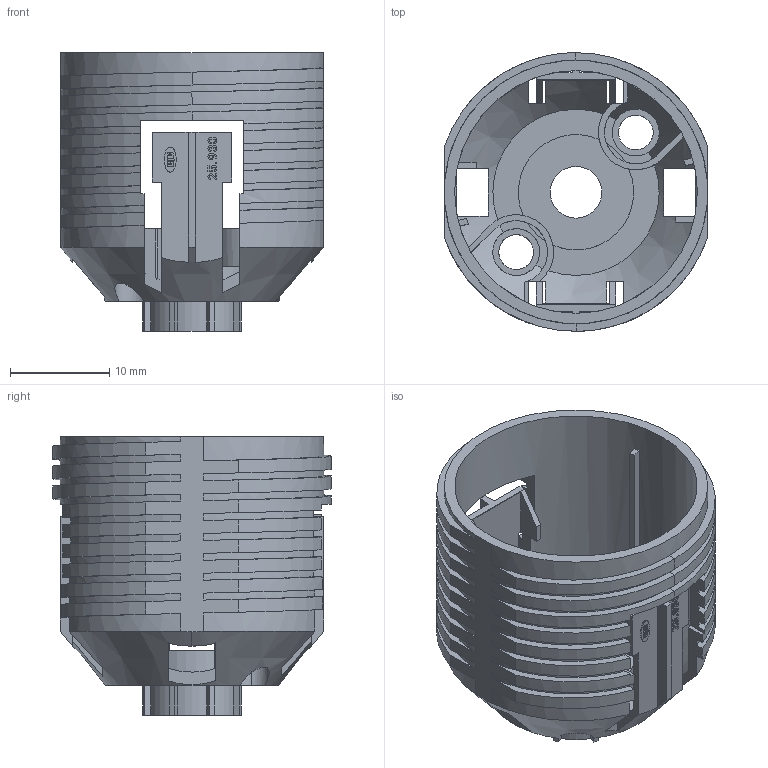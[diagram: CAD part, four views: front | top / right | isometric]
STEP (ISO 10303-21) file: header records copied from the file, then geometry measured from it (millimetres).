
FILE_DESCRIPTION(('Surface Model. B-Spline boundary curves.'),'1');
FILE_NAME('F:\ci-bearbeitung\00WYR05Z01.stp','2002-05-29 T',(' '),(' '),'STEP Interface v190.0 by CORETECH International','TRANS-3D v190.0 by CORETECH International',' ');
FILE_SCHEMA(('CONFIG_CONTROL_DESIGN'));
Length unit declared in the file: millimetre
Products named in the file (1): 00WYR05Z01
Bounding box: 26.4 x 28 x 28 mm (x, y, z)
Volume: 2821.3 mm3; surface area: 6260.5 mm2
Topology: 1 solids, 1 shells, 569 faces, 1634 edges, 1085 vertices
Faces by surface type: plane 346, cylinder 141, bspline 76, cone 6
Entity records: 21265 total; most frequent: CARTESIAN_POINT 6651, ORIENTED_EDGE 3268, DIRECTION 2713, EDGE_CURVE 1634, VECTOR 1127, LINE 1127, VERTEX_POINT 1085, AXIS2_PLACEMENT_3D 793
